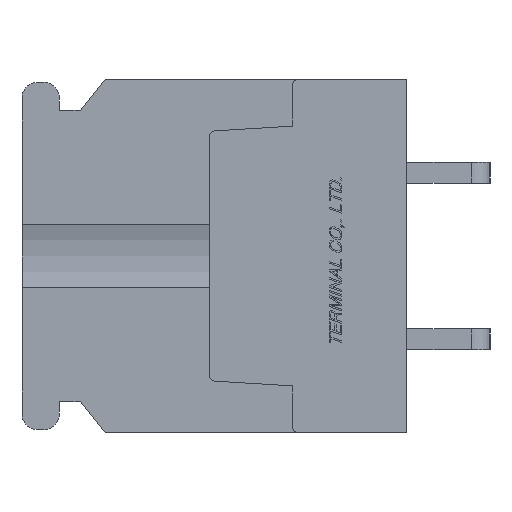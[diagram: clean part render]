
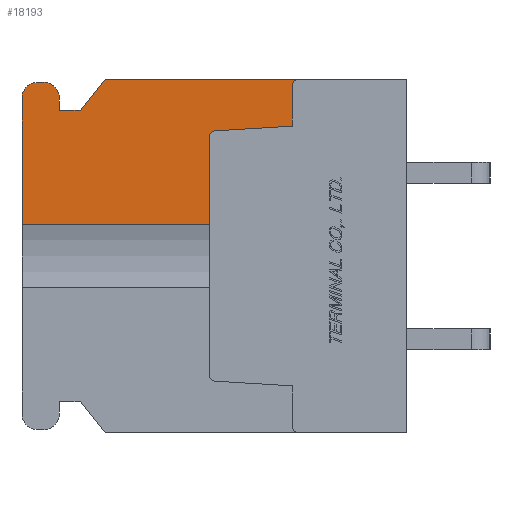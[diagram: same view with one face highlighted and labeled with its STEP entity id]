
A CAD part, left-side view. The second image highlights one B-rep face of the part: STEP entity #18193.
In plain terms, the highlighted planar face has unit normal (-1, 0, 0).
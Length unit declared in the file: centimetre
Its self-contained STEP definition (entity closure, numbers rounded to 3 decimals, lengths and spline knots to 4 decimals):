
#412=CIRCLE('',#31035,0.03);
#413=CIRCLE('',#31039,0.03);
#414=CIRCLE('',#31041,0.075);
#415=CIRCLE('',#31042,0.075);
#1546=VERTEX_POINT('',#25465);
#1547=VERTEX_POINT('',#25467);
#1548=VERTEX_POINT('',#25471);
#1549=VERTEX_POINT('',#25475);
#1550=VERTEX_POINT('',#25479);
#1551=VERTEX_POINT('',#25483);
#1552=VERTEX_POINT('',#25485);
#1553=VERTEX_POINT('',#25487);
#1554=VERTEX_POINT('',#25489);
#1555=VERTEX_POINT('',#25491);
#1556=VERTEX_POINT('',#25493);
#1557=VERTEX_POINT('',#25495);
#1558=VERTEX_POINT('',#25497);
#1559=VERTEX_POINT('',#25499);
#3506=VECTOR('',#20303,1.);
#3508=VECTOR('',#20306,1.);
#3510=VECTOR('',#20313,1.);
#3511=VECTOR('',#20314,1.);
#3512=VECTOR('',#20315,1.);
#3513=VECTOR('',#20316,1.);
#3514=VECTOR('',#20317,1.);
#3515=VECTOR('',#20320,1.);
#3516=VECTOR('',#20323,1.);
#3517=VECTOR('',#20324,1.);
#5524=LINE('',#25472,#3506);
#5526=LINE('',#25476,#3508);
#5528=LINE('',#25482,#3510);
#5529=LINE('',#25484,#3511);
#5530=LINE('',#25486,#3512);
#5531=LINE('',#25488,#3513);
#5532=LINE('',#25490,#3514);
#5533=LINE('',#25494,#3515);
#5534=LINE('',#25498,#3516);
#5535=LINE('',#25500,#3517);
#7650=EDGE_CURVE('',#1547,#1546,#412,.T.);
#7653=EDGE_CURVE('',#1546,#1548,#5524,.T.);
#7655=EDGE_CURVE('',#1548,#1549,#5526,.T.);
#7657=EDGE_CURVE('',#1549,#1550,#413,.T.);
#7658=EDGE_CURVE('',#1551,#1547,#5528,.T.);
#7659=EDGE_CURVE('',#1552,#1550,#5529,.T.);
#7660=EDGE_CURVE('',#1553,#1552,#5530,.T.);
#7661=EDGE_CURVE('',#1554,#1553,#5531,.T.);
#7662=EDGE_CURVE('',#1555,#1554,#5532,.T.);
#7663=EDGE_CURVE('',#1556,#1555,#414,.T.);
#7664=EDGE_CURVE('',#1557,#1556,#5533,.T.);
#7665=EDGE_CURVE('',#1558,#1557,#415,.T.);
#7666=EDGE_CURVE('',#1559,#1558,#5534,.T.);
#7667=EDGE_CURVE('',#1559,#1551,#5535,.T.);
#11003=ORIENTED_EDGE('',*,*,#7658,.T.);
#11004=ORIENTED_EDGE('',*,*,#7650,.T.);
#11005=ORIENTED_EDGE('',*,*,#7653,.T.);
#11006=ORIENTED_EDGE('',*,*,#7655,.T.);
#11007=ORIENTED_EDGE('',*,*,#7657,.T.);
#11008=ORIENTED_EDGE('',*,*,#7659,.F.);
#11009=ORIENTED_EDGE('',*,*,#7660,.F.);
#11010=ORIENTED_EDGE('',*,*,#7661,.F.);
#11011=ORIENTED_EDGE('',*,*,#7662,.F.);
#11012=ORIENTED_EDGE('',*,*,#7663,.F.);
#11013=ORIENTED_EDGE('',*,*,#7664,.F.);
#11014=ORIENTED_EDGE('',*,*,#7665,.F.);
#11015=ORIENTED_EDGE('',*,*,#7666,.F.);
#11016=ORIENTED_EDGE('',*,*,#7667,.T.);
#15877=EDGE_LOOP('',(#11003,#11004,#11005,#11006,#11007,#11008,#11009,#11010,
#11011,#11012,#11013,#11014,#11015,#11016));
#17045=FACE_BOUND('',#15877,.T.);
#18193=ADVANCED_FACE('',(#17045),#19181,.F.);
#19181=PLANE('',#31040);
#20298=DIRECTION('',(1.,0.,0.));
#20299=DIRECTION('',(0.,0.,0.03));
#20303=DIRECTION('',(0.,-0.998,0.061));
#20306=DIRECTION('',(0.,0.,1.));
#20310=DIRECTION('',(1.,0.,0.));
#20311=DIRECTION('',(0.,0.,0.03));
#20312=DIRECTION('',(1.,0.,0.));
#20313=DIRECTION('',(0.,0.,1.));
#20314=DIRECTION('',(0.,-1.,0.));
#20315=DIRECTION('',(0.,-0.625,0.781));
#20316=DIRECTION('',(0.,-1.,0.));
#20317=DIRECTION('',(0.,0.,-1.));
#20318=DIRECTION('',(1.,0.,0.));
#20319=DIRECTION('',(0.,0.,-0.075));
#20320=DIRECTION('',(0.,-1.,0.));
#20321=DIRECTION('',(1.,0.,0.));
#20322=DIRECTION('',(0.,0.,-0.075));
#20323=DIRECTION('',(0.,0.,1.));
#20324=DIRECTION('',(0.,-1.,0.));
#25465=CARTESIAN_POINT('',(-1.1,0.9218,0.6017));
#25466=CARTESIAN_POINT('',(-1.1,0.92,0.5718));
#25467=CARTESIAN_POINT('',(-1.1,0.95,0.5718));
#25471=CARTESIAN_POINT('',(-1.1,0.55,0.6245));
#25472=CARTESIAN_POINT('',(-1.1,0.859,0.6056));
#25475=CARTESIAN_POINT('',(-1.1,0.55,0.82));
#25476=CARTESIAN_POINT('',(-1.1,0.55,0.3611));
#25479=CARTESIAN_POINT('',(-1.1,0.52,0.85));
#25480=CARTESIAN_POINT('',(-1.1,0.52,0.82));
#25481=CARTESIAN_POINT('',(-1.1,0.9454,0.));
#25482=CARTESIAN_POINT('',(-1.1,0.95,0.));
#25483=CARTESIAN_POINT('',(-1.1,0.95,0.1521));
#25484=CARTESIAN_POINT('',(-1.1,1.45,0.85));
#25485=CARTESIAN_POINT('',(-1.1,1.45,0.85));
#25486=CARTESIAN_POINT('',(-1.1,1.57,0.7));
#25487=CARTESIAN_POINT('',(-1.1,1.57,0.7));
#25488=CARTESIAN_POINT('',(-1.1,1.67,0.7));
#25489=CARTESIAN_POINT('',(-1.1,1.67,0.7));
#25490=CARTESIAN_POINT('',(-1.1,1.67,0.76));
#25491=CARTESIAN_POINT('',(-1.1,1.67,0.76));
#25492=CARTESIAN_POINT('',(-1.1,1.745,0.76));
#25493=CARTESIAN_POINT('',(-1.1,1.745,0.835));
#25494=CARTESIAN_POINT('',(-1.1,1.775,0.835));
#25495=CARTESIAN_POINT('',(-1.1,1.775,0.835));
#25496=CARTESIAN_POINT('',(-1.1,1.775,0.76));
#25497=CARTESIAN_POINT('',(-1.1,1.85,0.76));
#25498=CARTESIAN_POINT('',(-1.1,1.85,-0.76));
#25499=CARTESIAN_POINT('',(-1.1,1.85,0.1521));
#25500=CARTESIAN_POINT('',(-1.1,1.4,0.1521));
#31035=AXIS2_PLACEMENT_3D('',#25466,#20298,#20299);
#31039=AXIS2_PLACEMENT_3D('',#25480,#20310,#20311);
#31040=AXIS2_PLACEMENT_3D('',#25481,#20312,$);
#31041=AXIS2_PLACEMENT_3D('',#25492,#20318,#20319);
#31042=AXIS2_PLACEMENT_3D('',#25496,#20321,#20322);
